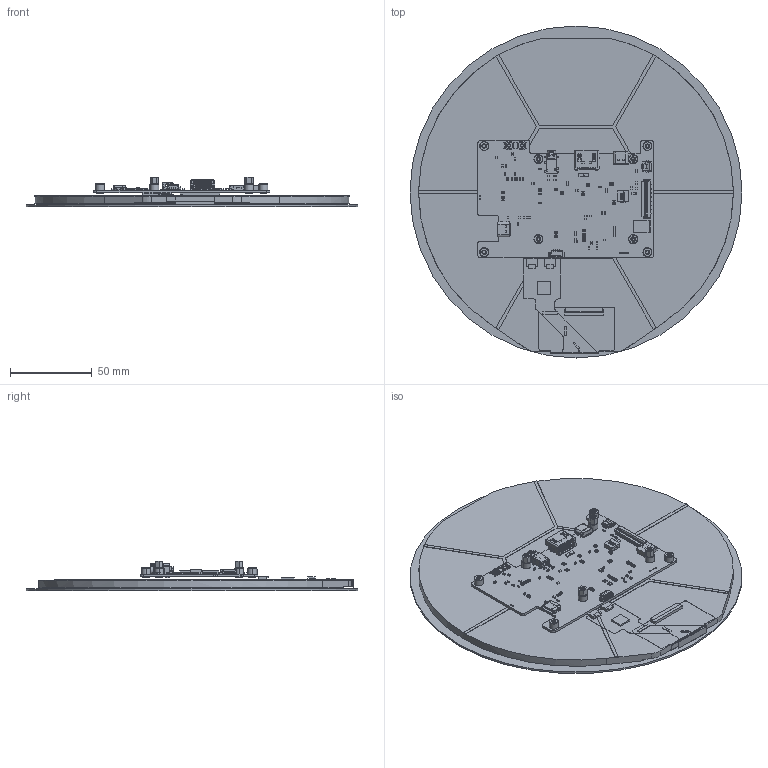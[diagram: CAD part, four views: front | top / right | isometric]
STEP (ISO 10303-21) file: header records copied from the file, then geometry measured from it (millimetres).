
FILE_DESCRIPTION((''),'2;1');
FILE_NAME('7INCH-1080X1080-LCD_ASM','2026-07-21T10:33:22',('ag'),(''),'CREO PARAMETRIC BY PTC INC, 2021063','CREO PARAMETRIC BY PTC INC, 2021063','');
FILE_SCHEMA(('CONFIG_CONTROL_DESIGN','SHAPE_APPEARANCE_LAYERS_GROUPS'));
Products named in the file (6): 7INCH-TP; 7INCH-LCD; 7INCH-LCM_ASM; 093-104INCH_HDMI-PCBA-0609_ASM; HEX_STUDS-M2_5XH4XL4; 7INCH-1080X1080-LCD_ASM
Assembly tree (8 placements, depth 3):
  7INCH-1080X1080-LCD_ASM
    7INCH-LCM_ASM
      7INCH-TP
      7INCH-LCD
    093-104INCH_HDMI-PCBA-0609_ASM
    HEX_STUDS-M2_5XH4XL4  x4
Bounding box: 203.34 x 203.34 x 18.08 mm (x, y, z)
Volume: 200720.8 mm3; surface area: 152906.1 mm2
Topology: 93 solids, 99 shells, 7251 faces, 20292 edges, 13390 vertices
Faces by surface type: plane 4735, cylinder 2259, cone 124, bspline 88, torus 28, sphere 17
Entity records: 275611 total; most frequent: CARTESIAN_POINT 51912, ORIENTED_EDGE 39430, DIRECTION 37148, EDGE_CURVE 19718, VECTOR 14664, LINE 14664, VERTEX_POINT 13030, AXIS2_PLACEMENT_3D 11242
